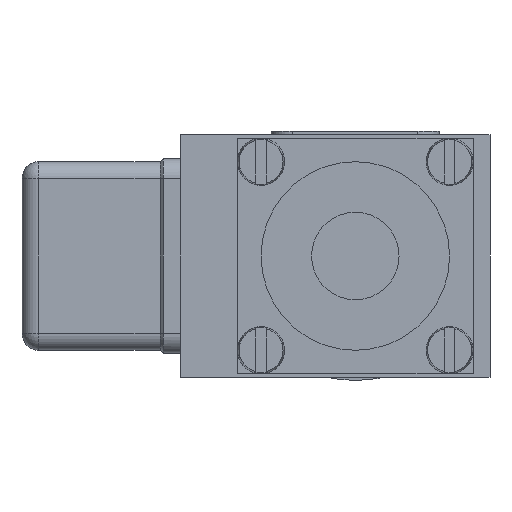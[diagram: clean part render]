
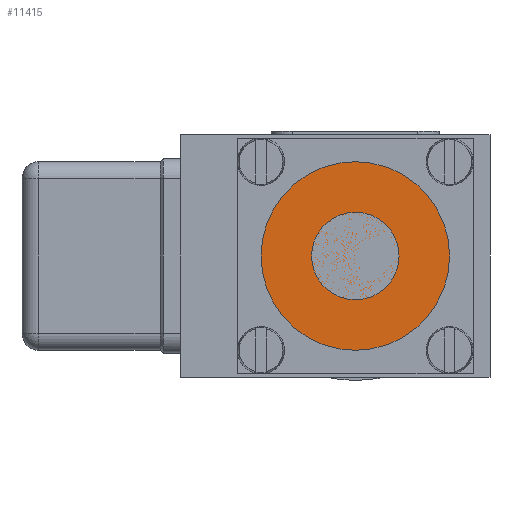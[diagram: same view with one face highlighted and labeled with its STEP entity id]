
A CAD part, left-side view. The second image highlights one B-rep face of the part: STEP entity #11415.
In plain terms, the highlighted planar face has unit normal (-1, 0, 0) as drawn and (1, 0, 0) by its records, which use the part's own axes.
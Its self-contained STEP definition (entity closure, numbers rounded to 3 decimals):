
#11112=CARTESIAN_POINT('',(10.2,0.,0.));
#11113=DIRECTION('',(1.,0.,0.));
#11114=DIRECTION('',(0.,0.,-1.));
#11115=AXIS2_PLACEMENT_3D('',#11112,#11113,#11114);
#11120=CARTESIAN_POINT('',(10.2,0.,0.));
#11121=DIRECTION('',(1.,0.,0.));
#11122=DIRECTION('',(0.,0.,1.));
#11123=AXIS2_PLACEMENT_3D('',#11120,#11121,#11122);
#11200=CARTESIAN_POINT('',(10.2,0.,-14.));
#11201=CARTESIAN_POINT('',(10.2,0.,14.));
#11202=VERTEX_POINT('',#11200);
#11203=VERTEX_POINT('',#11201);
#11406=CARTESIAN_POINT('',(10.2,0.,0.));
#11407=DIRECTION('',(1.,0.,0.));
#11408=DIRECTION('',(0.,0.,-1.));
#11409=AXIS2_PLACEMENT_3D('',#11406,#11407,#11408);
#11410=PLANE('',#11409);
#11411=ORIENTED_EDGE('',*,*,#11386,.F.);
#11412=ORIENTED_EDGE('',*,*,#11400,.F.);
#11413=EDGE_LOOP('',(#11411,#11412));
#11414=FACE_OUTER_BOUND('',#11413,.F.);
#11116=CIRCLE('',#11115,14.);
#11124=CIRCLE('',#11123,14.);
#11386=EDGE_CURVE('',#11202,#11203,#11116,.T.);
#11400=EDGE_CURVE('',#11203,#11202,#11124,.T.);
#11415=ADVANCED_FACE('',(#11414),#11410,.T.);
